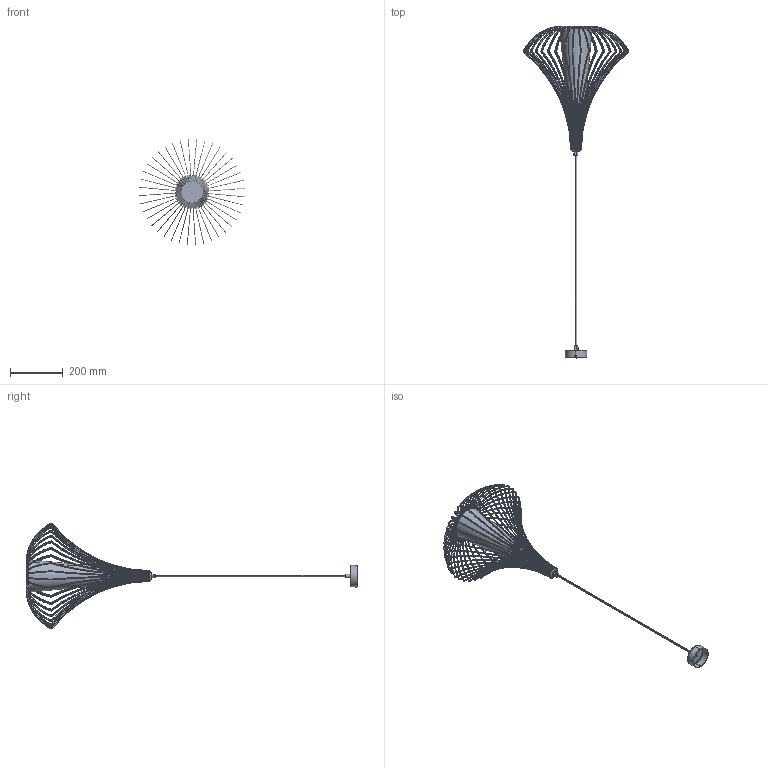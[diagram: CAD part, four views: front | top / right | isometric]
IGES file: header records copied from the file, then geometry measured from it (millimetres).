
Start section: SolidWorks IGES file using NURBS representation for surfaces
Global section: file name: Z:\Modele 3D_WWW\_KOLEKCJE_WWW\KAREN-4607\KAREN-4607.IGS; native system: SolidWorks 2021; preprocessor: SolidWorks 2021; author: gabriela.tworek; date: 210916.130738; units: millimetre
Bounding box: 399.61 x 1253.39 x 399.61 mm (x, y, z)
Surface area: 450507 mm2 (no closed solid volume)
Topology: 0 solids, 0 shells, 575 faces, 9530 edges, 9468 vertices
Faces by surface type: bspline 575
